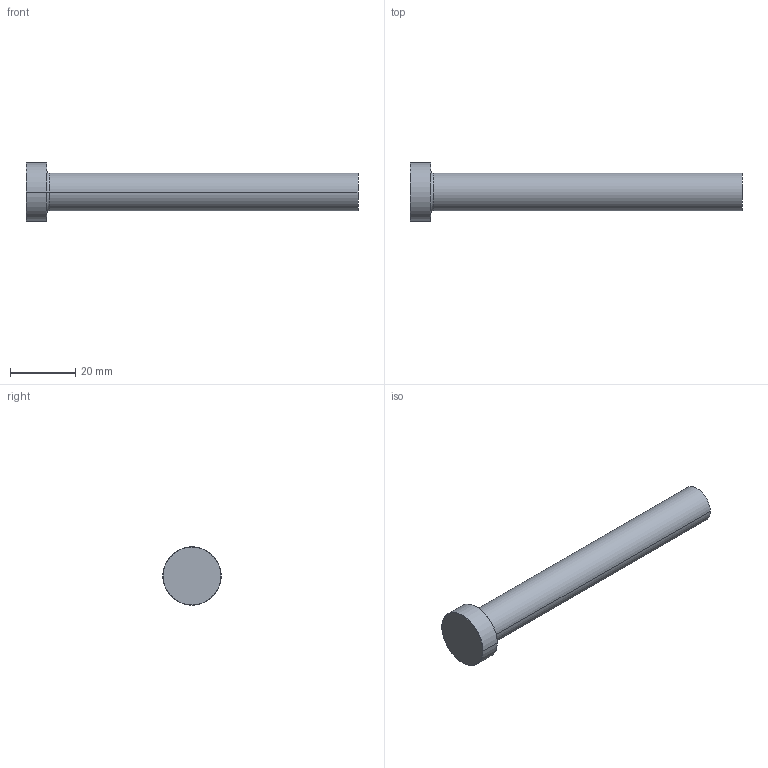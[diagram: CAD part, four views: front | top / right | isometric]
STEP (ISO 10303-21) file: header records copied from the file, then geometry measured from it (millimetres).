
FILE_DESCRIPTION (( 'STEP AP214' ), '1' );
FILE_NAME ('P30-4.STEP', '2020-03-12T10:30:44', ( '' ), ( '' ), 'SwSTEP 2.0', 'SolidWorks 2018', '' );
FILE_SCHEMA (( 'AUTOMOTIVE_DESIGN' ));
Length unit declared in the file: inch
Products named in the file (1): P30-4
Bounding box: 101.6 x 17.86 x 17.86 mm (x, y, z)
Volume: 11491.3 mm3; surface area: 4280.8 mm2
Topology: 1 solids, 1 shells, 13 faces, 24 edges, 14 vertices
Faces by surface type: cone 4, cylinder 4, plane 3, torus 2
Entity records: 366 total; most frequent: DIRECTION 68, CARTESIAN_POINT 52, ORIENTED_EDGE 48, AXIS2_PLACEMENT_3D 30, EDGE_CURVE 24, CIRCLE 16, VERTEX_POINT 14, EDGE_LOOP 14
